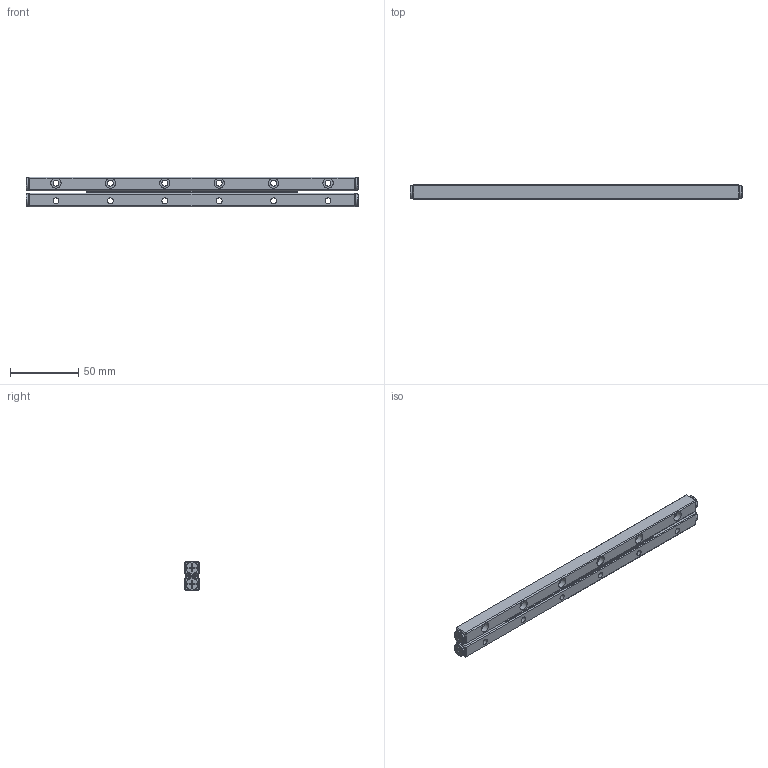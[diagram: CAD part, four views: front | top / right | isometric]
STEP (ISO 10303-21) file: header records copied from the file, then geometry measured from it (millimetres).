
FILE_DESCRIPTION (( 'STEP AP203' ), '1' );
FILE_NAME ('GRG04-0240-模糊化軌道組.STEP', '2022-10-31T06:17:42', ( '' ), ( '' ), 'SwSTEP 2.0', 'SolidWorks 2019', '' );
FILE_SCHEMA (( 'CONFIG_CONTROL_DESIGN' ));
Length unit declared in the file: millimetre
Products named in the file (1): GRG04-0240-模糊化軌道組
Bounding box: 244 x 11 x 22 mm (x, y, z)
Volume: 48923.1 mm3; surface area: 27378.2 mm2
Topology: 3 solids, 7 shells, 566 faces, 1398 edges, 886 vertices
Faces by surface type: plane 404, cylinder 74, torus 48, cone 40
Full cylindrical faces by diameter (mm): 3.35 x4, 4.3 x12, 7.5 x12, 9.3 x4
Entity records: 16513 total; most frequent: CARTESIAN_POINT 3683, ORIENTED_EDGE 2640, DIRECTION 2506, EDGE_CURVE 1320, VECTOR 908, LINE 908, VERTEX_POINT 856, AXIS2_PLACEMENT_3D 799
